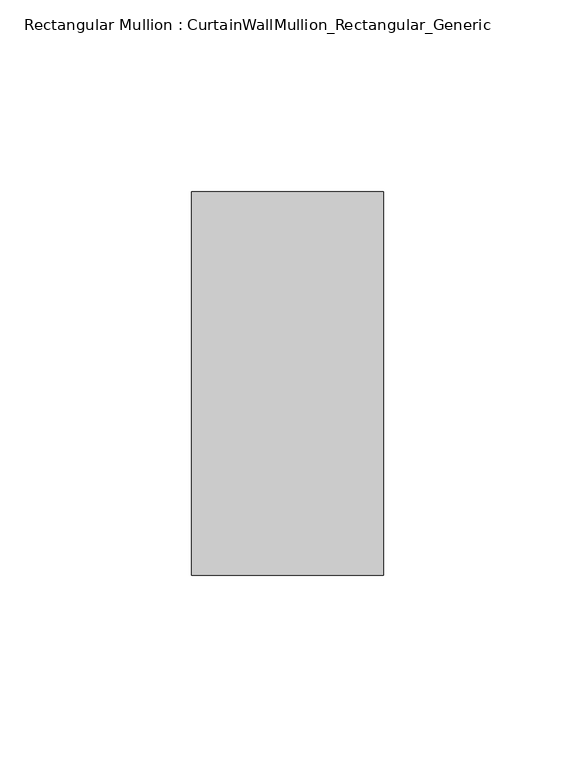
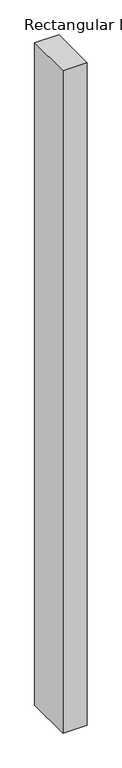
"""IFC4 building model written with IfcOpenShell, lengths in millimetres: member geometry, Rectangular Mullion : CurtainWallMullion_Rectangular_Generic."""

from ifc_helpers import new_model, si_unit, frame, origin, place, context, project, spatial, polyline, outline, extrude, source, transform, mapped, element, save


def rectangular_mullion_curtainwallmullion_rectangular_generic_141bc770(model_context):
    return source(origin(), model_context, "Body", "SweptSolid", [
        extrude(outline(polyline([(25.0, 50.0), (25.0, -50.0), (-25.0, -50.0), (-25.0, 50.0), (25.0, 50.0)])), frame((0.0, 0.0, -1436.1111113), z_axis=(0.0, 0.0, 1.0), x_axis=(1.0, 0.0, 0.0)), (0.0, 0.0, 1.0), 1436.1111113),
    ])


if __name__ == "__main__":
    model = new_model("IFC4")
    model_context = context("Model", 3, world=origin())
    ifc_project = project(units=[si_unit("LENGTHUNIT", "METRE", prefix="MILLI")], contexts=[model_context])
    site = spatial("IfcSite", under=ifc_project)
    building = spatial("IfcBuilding", under=site)
    placement = place(None, origin())
    rectangular_mullion_curtainwallmullion_rectangular_generic_shape = rectangular_mullion_curtainwallmullion_rectangular_generic_141bc770(model_context)
    element("IfcMember", 1, ObjectType="Rectangular Mullion : CurtainWallMullion_Rectangular_Generic", at=placement, inside=building, context=model_context, shape_type="MappedRepresentation", body=[
        mapped(rectangular_mullion_curtainwallmullion_rectangular_generic_shape, transform((0.0, 0.0, 0.0), x_axis=(1.0, 0.0, 0.0), y_axis=(0.0, 1.0, 0.0), z_axis=(0.0, 0.0, 1.0))),
    ])
    save(model, "model.ifc")
